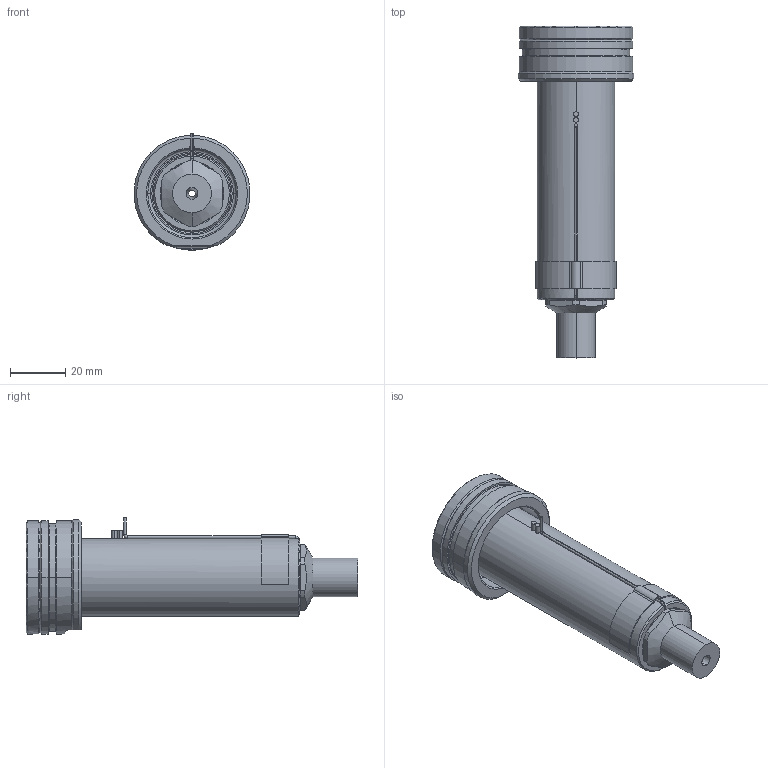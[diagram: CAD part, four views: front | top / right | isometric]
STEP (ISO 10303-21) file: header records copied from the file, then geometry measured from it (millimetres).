
FILE_DESCRIPTION((''),'2;1');
FILE_NAME('EO10_VG-FBE_STD_090_SW','2024-02-19T13:58:34',('sundharh'),(''),'CREO PARAMETRIC BY PTC INC, 2023154','CREO PARAMETRIC BY PTC INC, 2023154','');
FILE_SCHEMA(('CONFIG_CONTROL_DESIGN'));
Length unit declared in the file: millimetre
Products named in the file (1): EO10_VG-FBE_STD_090_SW
Bounding box: 41.85 x 120 x 42.02 mm (x, y, z)
Volume: 68409.7 mm3; surface area: 20455.2 mm2
Topology: 1 solids, 1 shells, 195 faces, 484 edges, 295 vertices
Faces by surface type: cylinder 71, plane 47, cone 39, torus 23, bspline 13, sphere 2
Entity records: 6712 total; most frequent: CARTESIAN_POINT 1988, DIRECTION 1045, ORIENTED_EDGE 964, EDGE_CURVE 482, AXIS2_PLACEMENT_3D 437, VERTEX_POINT 295, CIRCLE 255, EDGE_LOOP 211
